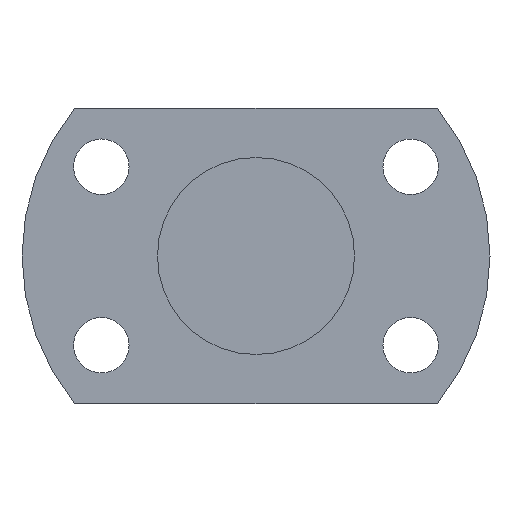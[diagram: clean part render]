
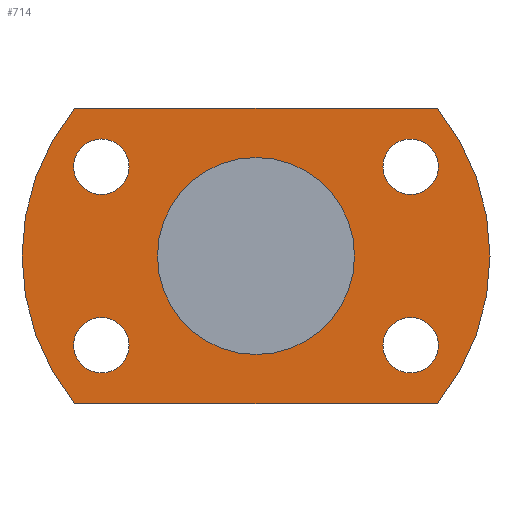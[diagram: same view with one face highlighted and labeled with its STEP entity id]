
A CAD part, left-side view. The second image highlights one B-rep face of the part: STEP entity #714.
In plain terms, the highlighted planar face has unit normal (-1, 0, 0).
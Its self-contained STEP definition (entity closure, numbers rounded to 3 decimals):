
#230=CARTESIAN_POINT('',(120.0,25.115,-10.0));
#231=VERTEX_POINT('',#230);
#232=CARTESIAN_POINT('',(120.0,25.115,-14.5));
#233=DIRECTION('',(1.0,0.0,0.0));
#234=DIRECTION('',(0.0,0.0,1.0));
#235=AXIS2_PLACEMENT_3D('',#232,#233,#234);
#236=CIRCLE('',#235,4.5);
#237=EDGE_CURVE('',#231,#231,#236,.T.);
#279=CARTESIAN_POINT('',(120.0,-25.115,19.));
#280=VERTEX_POINT('',#279);
#281=CARTESIAN_POINT('',(120.0,-25.115,14.5));
#282=DIRECTION('',(1.0,0.0,0.0));
#283=DIRECTION('',(0.0,0.0,1.0));
#284=AXIS2_PLACEMENT_3D('',#281,#282,#283);
#285=CIRCLE('',#284,4.5);
#286=EDGE_CURVE('',#280,#280,#285,.T.);
#328=CARTESIAN_POINT('',(120.0,-25.115,-10.));
#329=VERTEX_POINT('',#328);
#330=CARTESIAN_POINT('',(120.0,-25.115,-14.5));
#331=DIRECTION('',(1.0,0.0,0.0));
#332=DIRECTION('',(0.0,0.0,1.0));
#333=AXIS2_PLACEMENT_3D('',#330,#331,#332);
#334=CIRCLE('',#333,4.5);
#335=EDGE_CURVE('',#329,#329,#334,.T.);
#377=CARTESIAN_POINT('',(120.0,25.115,19.0));
#378=VERTEX_POINT('',#377);
#379=CARTESIAN_POINT('',(120.0,25.115,14.5));
#380=DIRECTION('',(1.0,0.0,0.0));
#381=DIRECTION('',(0.0,0.0,1.0));
#382=AXIS2_PLACEMENT_3D('',#379,#380,#381);
#383=CIRCLE('',#382,4.5);
#384=EDGE_CURVE('',#378,#378,#383,.T.);
#548=CARTESIAN_POINT('',(120.0,-29.462,-24.));
#549=VERTEX_POINT('',#548);
#556=CARTESIAN_POINT('',(120.0,29.462,-24.));
#557=VERTEX_POINT('',#556);
#558=CARTESIAN_POINT('',(120.0,29.462,-24.));
#559=DIRECTION('',(0.0,-1.0,0.0));
#560=VECTOR('',#559,58.924);
#561=LINE('',#558,#560);
#562=EDGE_CURVE('',#557,#549,#561,.T.);
#579=CARTESIAN_POINT('',(120.0,-29.462,24.));
#580=VERTEX_POINT('',#579);
#587=CARTESIAN_POINT('',(120.0,0.0,0.0));
#588=DIRECTION('',(-1.0,0.0,0.0));
#589=DIRECTION('',(0.0,0.0,1.0));
#590=AXIS2_PLACEMENT_3D('',#587,#588,#589);
#591=CIRCLE('',#590,38.);
#592=EDGE_CURVE('',#549,#580,#591,.T.);
#604=CARTESIAN_POINT('',(120.0,29.462,24.));
#605=VERTEX_POINT('',#604);
#612=CARTESIAN_POINT('',(120.0,-29.462,24.));
#613=DIRECTION('',(0.0,1.0,0.0));
#614=VECTOR('',#613,58.924);
#615=LINE('',#612,#614);
#616=EDGE_CURVE('',#580,#605,#615,.T.);
#629=CARTESIAN_POINT('',(120.0,0.0,0.0));
#630=DIRECTION('',(-1.0,0.0,0.0));
#631=DIRECTION('',(0.0,0.0,1.0));
#632=AXIS2_PLACEMENT_3D('',#629,#630,#631);
#633=CIRCLE('',#632,38.);
#634=EDGE_CURVE('',#605,#557,#633,.T.);
#680=CARTESIAN_POINT('',(120.0,0.0,19.));
#681=DIRECTION('',(-1.0,0.0,0.0));
#682=DIRECTION('',(0.0,0.0,1.0));
#683=AXIS2_PLACEMENT_3D('',#680,#681,#682);
#684=PLANE('',#683);
#685=ORIENTED_EDGE('',*,*,#634,.T.);
#686=ORIENTED_EDGE('',*,*,#562,.T.);
#687=ORIENTED_EDGE('',*,*,#592,.T.);
#688=ORIENTED_EDGE('',*,*,#616,.T.);
#689=EDGE_LOOP('',(#685,#686,#687,#688));
#690=FACE_OUTER_BOUND('',#689,.T.);
#691=ORIENTED_EDGE('',*,*,#237,.T.);
#692=EDGE_LOOP('',(#691));
#693=FACE_BOUND('',#692,.T.);
#694=ORIENTED_EDGE('',*,*,#286,.T.);
#695=EDGE_LOOP('',(#694));
#696=FACE_BOUND('',#695,.T.);
#697=ORIENTED_EDGE('',*,*,#335,.T.);
#698=EDGE_LOOP('',(#697));
#699=FACE_BOUND('',#698,.T.);
#700=ORIENTED_EDGE('',*,*,#384,.T.);
#701=EDGE_LOOP('',(#700));
#702=FACE_BOUND('',#701,.T.);
#703=CARTESIAN_POINT('',(120.0,0.0,16.));
#704=VERTEX_POINT('',#703);
#705=CARTESIAN_POINT('',(120.0,0.0,0.0));
#706=DIRECTION('',(-1.0,0.0,0.0));
#707=DIRECTION('',(0.0,0.0,1.0));
#708=AXIS2_PLACEMENT_3D('',#705,#706,#707);
#709=CIRCLE('',#708,16.);
#710=EDGE_CURVE('',#704,#704,#709,.T.);
#711=ORIENTED_EDGE('',*,*,#710,.F.);
#712=EDGE_LOOP('',(#711));
#713=FACE_BOUND('',#712,.T.);
#714=ADVANCED_FACE('',(#690,#693,#696,#699,#702,#713),#684,.T.);
